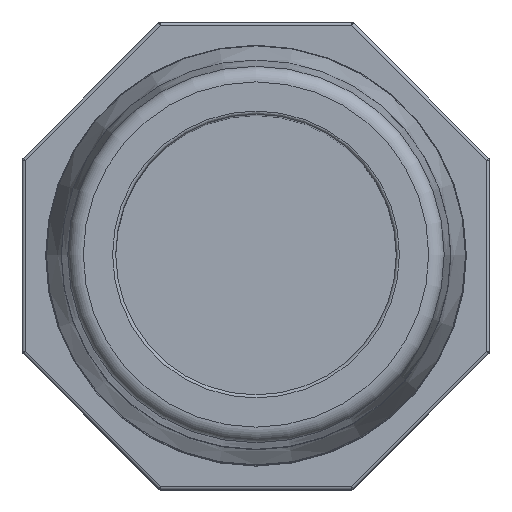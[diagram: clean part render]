
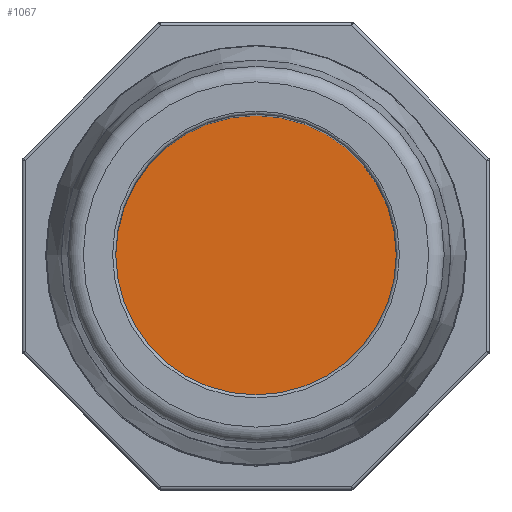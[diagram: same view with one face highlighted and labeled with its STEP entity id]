
A CAD part, top view. The second image highlights one B-rep face of the part: STEP entity #1067.
In plain terms, the highlighted planar face has unit normal (0, 0, 1).
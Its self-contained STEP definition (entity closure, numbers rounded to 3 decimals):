
#88=PLANE('',#1235);
#295=FACE_OUTER_BOUND('',#413,.T.);
#413=EDGE_LOOP('',(#967));
#495=CIRCLE('',#1230,9.);
#577=VERTEX_POINT('',#1907);
#707=EDGE_CURVE('',#577,#577,#495,.T.);
#967=ORIENTED_EDGE('',*,*,#707,.F.);
#1067=ADVANCED_FACE('',(#295),#88,.T.);
#1230=AXIS2_PLACEMENT_3D('',#1908,#1605,#1606);
#1235=AXIS2_PLACEMENT_3D('',#1914,#1615,#1616);
#1605=DIRECTION('center_axis',(0.,0.,-1.));
#1606=DIRECTION('ref_axis',(1.,0.,0.));
#1615=DIRECTION('center_axis',(0.,0.,1.));
#1616=DIRECTION('ref_axis',(1.,0.,0.));
#1907=CARTESIAN_POINT('',(-9.,0.,30.));
#1908=CARTESIAN_POINT('Origin',(0.,0.,30.));
#1914=CARTESIAN_POINT('Origin',(0.,0.,
30.));
